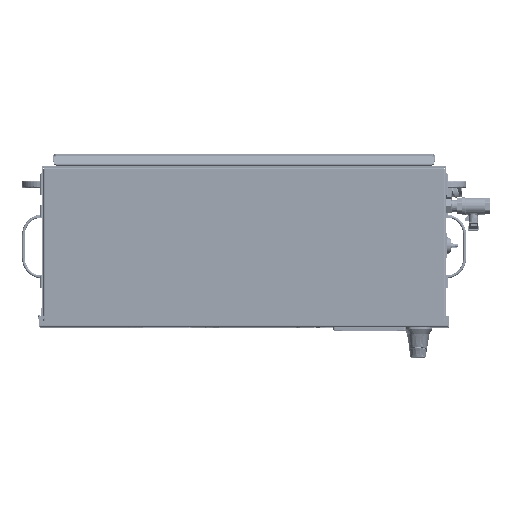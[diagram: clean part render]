
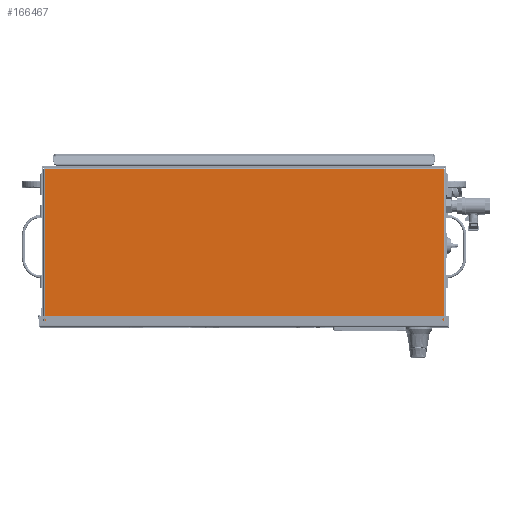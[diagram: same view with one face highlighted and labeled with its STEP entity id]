
A CAD part, top view. The second image highlights one B-rep face of the part: STEP entity #166467.
In plain terms, the highlighted planar face has unit normal (0, 0, 1).
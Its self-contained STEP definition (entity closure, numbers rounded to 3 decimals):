
#7705=FACE_OUTER_BOUND('',#16685,.T.);
#16685=EDGE_LOOP('',(#105294,#105295,#105296,#105297,#105298,#105299));
#30928=LINE('',#234478,#47671);
#30943=LINE('',#234519,#47686);
#30944=LINE('',#234521,#47687);
#30949=LINE('',#234539,#47692);
#30960=LINE('',#234562,#47703);
#30961=LINE('',#234563,#47704);
#47671=VECTOR('',#189793,39.37);
#47686=VECTOR('',#189834,39.37);
#47687=VECTOR('',#189837,39.37);
#47692=VECTOR('',#189856,39.37);
#47703=VECTOR('',#189881,39.37);
#47704=VECTOR('',#189882,39.37);
#64492=VERTEX_POINT('',#234431);
#64505=VERTEX_POINT('',#234470);
#64516=VERTEX_POINT('',#234511);
#64519=VERTEX_POINT('',#234517);
#64525=VERTEX_POINT('',#234537);
#64530=VERTEX_POINT('',#234561);
#80431=EDGE_CURVE('',#64492,#64505,#30928,.T.);
#80451=EDGE_CURVE('',#64516,#64519,#30943,.T.);
#80452=EDGE_CURVE('',#64505,#64516,#30944,.T.);
#80461=EDGE_CURVE('',#64519,#64525,#30949,.T.);
#80472=EDGE_CURVE('',#64525,#64530,#30960,.T.);
#80473=EDGE_CURVE('',#64530,#64492,#30961,.T.);
#105294=ORIENTED_EDGE('',*,*,#80451,.T.);
#105295=ORIENTED_EDGE('',*,*,#80461,.T.);
#105296=ORIENTED_EDGE('',*,*,#80472,.T.);
#105297=ORIENTED_EDGE('',*,*,#80473,.T.);
#105298=ORIENTED_EDGE('',*,*,#80431,.T.);
#105299=ORIENTED_EDGE('',*,*,#80452,.T.);
#151796=PLANE('',#175843);
#166467=ADVANCED_FACE('',(#7705),#151796,.T.);
#175843=AXIS2_PLACEMENT_3D('',#234560,#189879,#189880);
#189793=DIRECTION('',(-1.,0.,0.));
#189834=DIRECTION('',(1.,0.,0.));
#189837=DIRECTION('',(0.,-1.,0.));
#189856=DIRECTION('',(1.,0.,0.));
#189879=DIRECTION('center_axis',(0.,0.,
1.));
#189880=DIRECTION('ref_axis',(-1.,0.,0.));
#189881=DIRECTION('',(1.,0.,0.));
#189882=DIRECTION('',(0.,1.,0.));
#234431=CARTESIAN_POINT('',(13.817,-0.202,21.));
#234470=CARTESIAN_POINT('',(-13.779,-0.202,21.));
#234478=CARTESIAN_POINT('',(13.856,-0.202,21.));
#234511=CARTESIAN_POINT('',(-13.779,-10.887,21.));
#234517=CARTESIAN_POINT('',(-13.384,-10.887,21.));
#234519=CARTESIAN_POINT('',(-13.818,-10.887,21.));
#234521=CARTESIAN_POINT('',(-13.779,-0.202,21.));
#234537=CARTESIAN_POINT('',(13.422,-10.887,21.));
#234539=CARTESIAN_POINT('',(-13.384,-10.887,21.));
#234560=CARTESIAN_POINT('Origin',(13.856,-0.163,21.));
#234561=CARTESIAN_POINT('',(13.817,-10.887,21.));
#234562=CARTESIAN_POINT('',(-13.818,-10.887,21.));
#234563=CARTESIAN_POINT('',(13.817,-10.887,21.));
